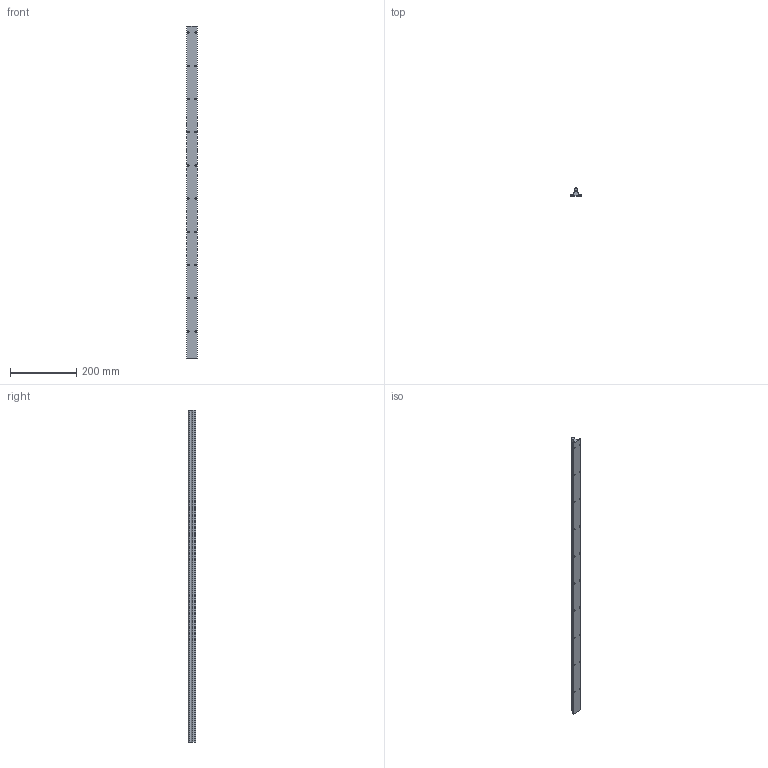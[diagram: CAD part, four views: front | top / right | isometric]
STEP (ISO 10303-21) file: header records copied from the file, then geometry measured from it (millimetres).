
FILE_DESCRIPTION (( 'STEP AP214' ), '1' );
FILE_NAME ('2.6100 Johdeakseli SBR10.STEP', '2024-06-03T12:16:44', ( '' ), ( '' ), 'SwSTEP 2.0', 'SolidWorks 2024', '' );
FILE_SCHEMA (( 'AUTOMOTIVE_DESIGN' ));
Length unit declared in the file: millimetre
Products named in the file (1): 2.6100 Johdeakseli SBR10
Bounding box: 32 x 23 x 1000 mm (x, y, z)
Volume: 298613.5 mm3; surface area: 110185.6 mm2
Topology: 1 solids, 1 shells, 56 faces, 162 edges, 108 vertices
Faces by surface type: cylinder 43, plane 13
Entity records: 2039 total; most frequent: DIRECTION 362, CARTESIAN_POINT 327, ORIENTED_EDGE 324, EDGE_CURVE 162, AXIS2_PLACEMENT_3D 143, VERTEX_POINT 108, EDGE_LOOP 96, CIRCLE 86
